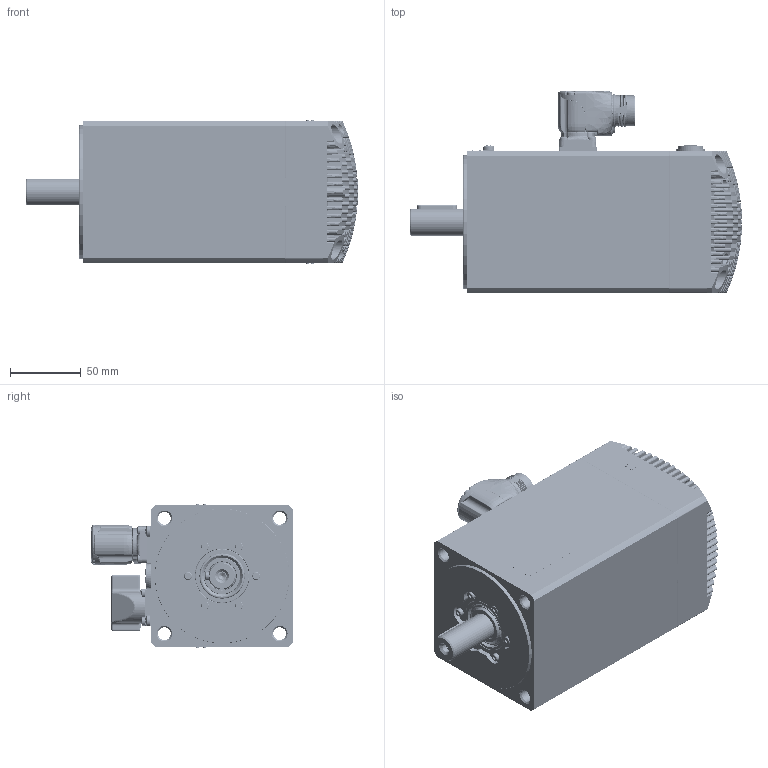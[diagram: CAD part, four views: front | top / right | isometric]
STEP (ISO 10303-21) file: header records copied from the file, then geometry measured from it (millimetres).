
FILE_DESCRIPTION((''),'2;1');
FILE_NAME('32190015747_ASM','2022-04-13T09:49:11',('gabrielec'),(''),'CREO PARAMETRIC BY PTC INC, 2021304','CREO PARAMETRIC BY PTC INC, 2021304','');
FILE_SCHEMA(('AP242_MANAGED_MODEL_BASED_3D_ENGINEERING_MIM_LF { 1 0 10303 442 1 1 4 }'));
Products named in the file (37): 52580N-0; 32149915564_ASM; 22320015080; 22320015080_ASM; 32050015015_ASM; 32060015581_ASM; 51941N-1; 32090015035_ASM; NRG_001; M3X16_GBT70-1; GB_T862_1; M4X8_GBT818_CU; 51093N-0; 32159915248_ASM; 22160015160; MENTOR-1292_9013; CEMBRE_FD9; CEMBRE_2053M16N; 32150015177_ASM; UNI7687_M3X8_INOX; CAN_OPEN; 33200203857_AF9_ASM; 31500203857_AF9_ASM; 50941N-0; UNI7687_M3X6_INOX; UNI5931_M3X6_INOX; 22210015021; 32150015175_ASM; UNI5931_M4X16; LIP_SEAL_TW05; 22250015024; 22250015126; 43500000229; 43500000050; L_6X6-28_UNI6604; PHOENIX_1605512; 32190015747_ASM
Assembly tree (64 placements, depth 7):
  32190015747_ASM
    32159915248_ASM
      32149915564_ASM
        52580N-0
      32090015035_ASM
        32060015581_ASM
          32050015015_ASM
            22320015080_ASM
              22320015080
        51941N-1
      NRG_001  x6
      M3X16_GBT70-1  x6
      GB_T862_1  x2
      M4X8_GBT818_CU  x2
      51093N-0
    32150015177_ASM
      22160015160
      MENTOR-1292_9013  x8
      CEMBRE_FD9
      CEMBRE_2053M16N
    UNI7687_M3X8_INOX  x4
    31500203857_AF9_ASM
      33200203857_AF9_ASM
        CAN_OPEN
    50941N-0  x2
    UNI7687_M3X6_INOX  x3
    UNI5931_M3X6_INOX
    32150015175_ASM
      22210015021
    UNI5931_M4X16  x4
    LIP_SEAL_TW05
    22250015024
    22250015126
    43500000229
    43500000050
    L_6X6-28_UNI6604
    PHOENIX_1605512
Bounding box: 234 x 142.41 x 100.8 mm (x, y, z)
Volume: 719009.4 mm3; surface area: 348632.4 mm2
Topology: 74 solids, 100 shells, 4461 faces, 11221 edges, 7108 vertices
Faces by surface type: plane 1488, cylinder 1099, cone 659, bspline 596, torus 354, sphere 243, revolution 11, extrusion 11
Entity records: 192638 total; most frequent: CARTESIAN_POINT 66967, ORIENTED_EDGE 19750, DIRECTION 17906, PRESENTATION_STYLE_ASSIGNMENT 10187, STYLED_ITEM 9957, EDGE_CURVE 9928, CURVE_STYLE 9884, AXIS2_PLACEMENT_3D 7010
